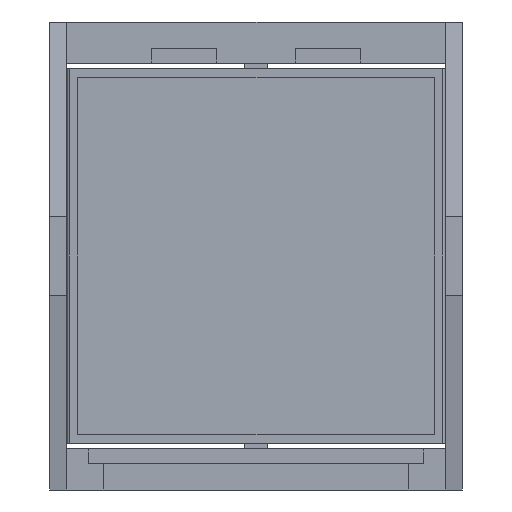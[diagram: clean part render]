
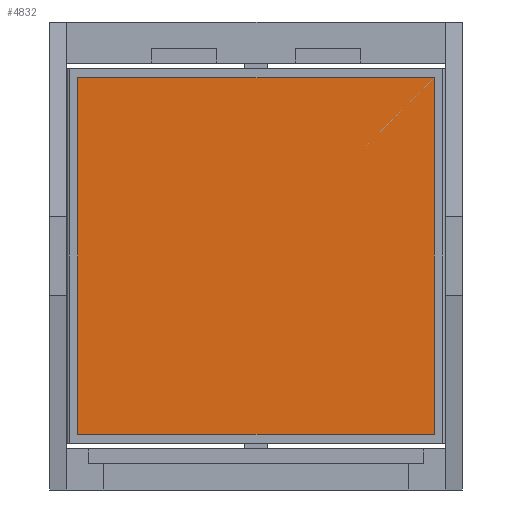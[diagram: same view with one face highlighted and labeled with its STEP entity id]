
A CAD part, front view. The second image highlights one B-rep face of the part: STEP entity #4832.
In plain terms, the highlighted planar face has unit normal (0, -1, 0).
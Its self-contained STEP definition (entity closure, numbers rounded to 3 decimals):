
#102 = DIRECTION ( 'NONE',  ( -1., 0., 0. ) ) ;
#781 = CARTESIAN_POINT ( 'NONE',  ( -14.587, -6.233, 18.695 ) ) ;
#1019 = DIRECTION ( 'NONE',  ( 0., -1., 0. ) ) ;
#1063 = DIRECTION ( 'NONE',  ( 0., 0., 1. ) ) ;
#1095 = VERTEX_POINT ( 'NONE', #1388 ) ;
#1096 = CARTESIAN_POINT ( 'NONE',  ( -14.587, -6.233, -10.305 ) ) ;
#1223 = EDGE_CURVE ( 'NONE', #1720, #1095, #2819, .T. ) ;
#1388 = CARTESIAN_POINT ( 'NONE',  ( 14.413, -6.233, -10.305 ) ) ;
#1466 = ORIENTED_EDGE ( 'NONE', *, *, #1223, .T. ) ;
#1564 = VECTOR ( 'NONE', #102, 1000. ) ;
#1720 = VERTEX_POINT ( 'NONE', #2533 ) ;
#1805 = EDGE_CURVE ( 'NONE', #2994, #1720, #2359, .T. ) ;
#1884 = VECTOR ( 'NONE', #7101, 1000. ) ;
#1889 = LINE ( 'NONE', #5260, #7381 ) ;
#1973 = DIRECTION ( 'NONE',  ( 0., 0., 1. ) ) ;
#2222 = EDGE_LOOP ( 'NONE', ( #3036, #5604, #3586, #1466 ) ) ;
#2359 = LINE ( 'NONE', #1096, #1884 ) ;
#2533 = CARTESIAN_POINT ( 'NONE',  ( -14.587, -6.233, -10.305 ) ) ;
#2679 = DIRECTION ( 'NONE',  ( 1., 0., 0. ) ) ;
#2819 = LINE ( 'NONE', #8303, #7522 ) ;
#2916 = AXIS2_PLACEMENT_3D ( 'NONE', #3926, #1019, #1063 ) ;
#2994 = VERTEX_POINT ( 'NONE', #781 ) ;
#3036 = ORIENTED_EDGE ( 'NONE', *, *, #8739, .T. ) ;
#3586 = ORIENTED_EDGE ( 'NONE', *, *, #1805, .T. ) ;
#3926 = CARTESIAN_POINT ( 'NONE',  ( 14.413, -6.233, 18.695 ) ) ;
#4832 = ADVANCED_FACE ( 'NONE', ( #8323 ), #4941, .T. ) ;
#4861 = CARTESIAN_POINT ( 'NONE',  ( 14.413, -6.233, 18.695 ) ) ;
#4895 = VERTEX_POINT ( 'NONE', #4861 ) ;
#4941 = PLANE ( 'NONE',  #2916 ) ;
#4969 = CARTESIAN_POINT ( 'NONE',  ( 14.413, -6.233, 18.695 ) ) ;
#5260 = CARTESIAN_POINT ( 'NONE',  ( 14.413, -6.233, -10.305 ) ) ;
#5604 = ORIENTED_EDGE ( 'NONE', *, *, #8054, .T. ) ;
#7101 = DIRECTION ( 'NONE',  ( 0., 0., -1. ) ) ;
#7381 = VECTOR ( 'NONE', #1973, 1000. ) ;
#7522 = VECTOR ( 'NONE', #2679, 1000. ) ;
#7577 = LINE ( 'NONE', #4969, #1564 ) ;
#8054 = EDGE_CURVE ( 'NONE', #4895, #2994, #7577, .T. ) ;
#8303 = CARTESIAN_POINT ( 'NONE',  ( 14.413, -6.233, -10.305 ) ) ;
#8323 = FACE_OUTER_BOUND ( 'NONE', #2222, .T. ) ;
#8739 = EDGE_CURVE ( 'NONE', #1095, #4895, #1889, .T. ) ;
